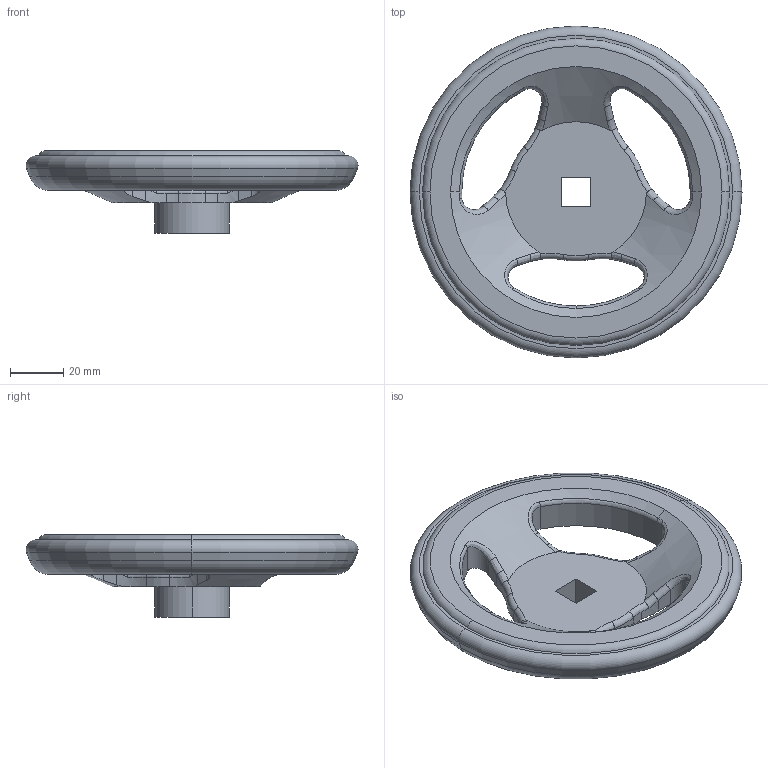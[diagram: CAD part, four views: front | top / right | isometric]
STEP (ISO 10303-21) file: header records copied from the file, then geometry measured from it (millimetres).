
FILE_DESCRIPTION (( 'STEP AP214' ), '1' );
FILE_NAME ('227.7-125-VK11-SWK.step', '2019-10-29T11:02:47', ( '' ), ( '' ), 'SwSTEP 2.0', 'SolidWorks 2019', '' );
FILE_SCHEMA (( 'AUTOMOTIVE_DESIGN' ));
Length unit declared in the file: millimetre
Products named in the file (1): 227.7-125-VK11-SWK
Bounding box: 125 x 125 x 31 mm (x, y, z)
Volume: 67477 mm3; surface area: 42720.4 mm2
Topology: 1 solids, 1 shells, 104 faces, 262 edges, 160 vertices
Faces by surface type: torus 28, cylinder 26, plane 18, bspline 18, cone 14
Entity records: 4275 total; most frequent: CARTESIAN_POINT 1830, ORIENTED_EDGE 524, DIRECTION 504, EDGE_CURVE 262, AXIS2_PLACEMENT_3D 223, VERTEX_POINT 160, CIRCLE 136, EDGE_LOOP 112
